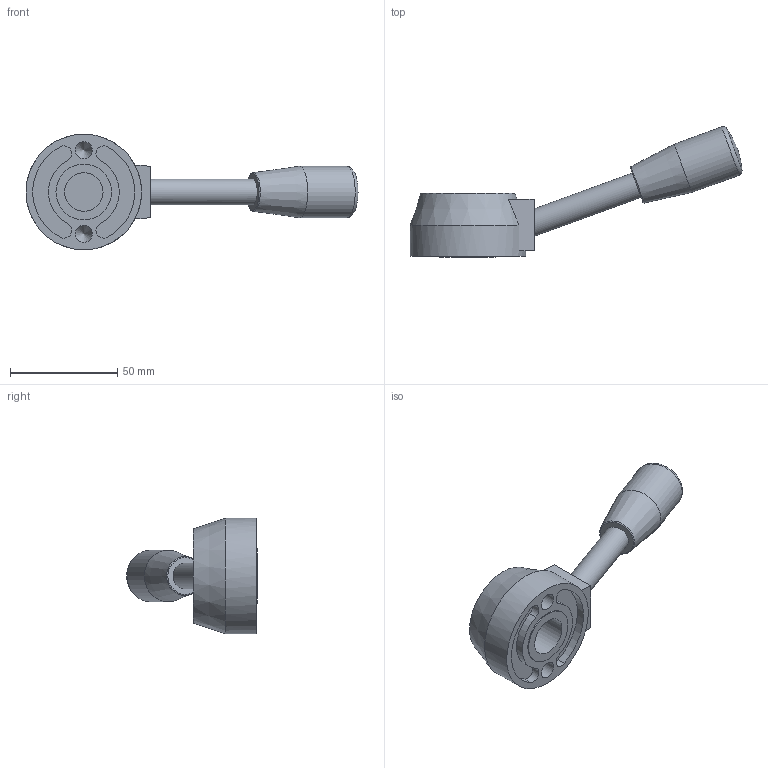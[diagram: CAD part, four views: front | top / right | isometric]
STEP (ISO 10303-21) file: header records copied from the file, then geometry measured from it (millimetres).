
FILE_DESCRIPTION( ( 'STEP AP203' ), '1' );
FILE_NAME( 'C:/Temp/Ganter_Step_05_03_2020/data/2_1/gn_512/gn_512_b/Control lever GN 512-54-B18.stp', '2020-03-05T11:51:38', ( 'License CC BY-ND 4.0' ), ( 'CADENAS' ), ' ', 'PARTsolutions', ' ' );
FILE_SCHEMA( ( 'CONFIG_CONTROL_DESIGN' ) );
Length unit declared in the file: millimetre
Products named in the file (1): _Control lever GN 512-54-B18
Bounding box: 155.09 x 61.04 x 54 mm (x, y, z)
Volume: 78703.6 mm3; surface area: 18700.3 mm2
Topology: 1 solids, 1 shells, 36 faces, 81 edges, 53 vertices
Faces by surface type: cylinder 16, plane 13, cone 4, torus 2, sphere 1
Full cylindrical faces by diameter (mm): 8 x2, 12 x1, 18 x1, 24 x1, 26 x1, 31 x1, 54 x1
Entity records: 930 total; most frequent: DIRECTION 168, CARTESIAN_POINT 149, ORIENTED_EDGE 116, AXIS2_PLACEMENT_3D 75, EDGE_CURVE 58, EDGE_LOOP 57, VERTEX_POINT 48, FACE_OUTER_BOUND 46
